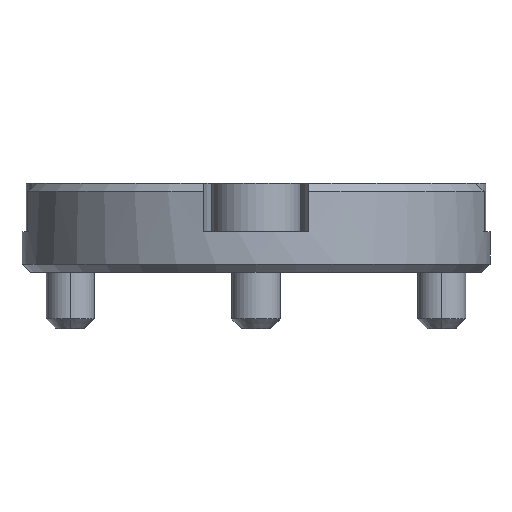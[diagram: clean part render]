
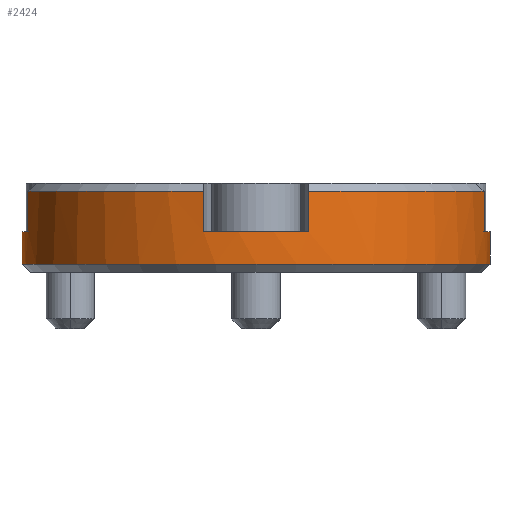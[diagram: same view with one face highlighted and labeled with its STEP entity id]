
A CAD part, left-side view. The second image highlights one B-rep face of the part: STEP entity #2424.
In plain terms, the highlighted cylindrical face has radius 14.5 mm (diameter 29 mm), a partial arc.
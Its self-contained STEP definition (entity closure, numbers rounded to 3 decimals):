
#1 = AXIS2_PLACEMENT_3D ( 'NONE', #1366, #2553, #2802 ) ;
#42 = AXIS2_PLACEMENT_3D ( 'NONE', #704, #1662, #964 ) ;
#108 = CARTESIAN_POINT ( 'NONE',  ( 0., -14.5, -5.5 ) ) ;
#113 = AXIS2_PLACEMENT_3D ( 'NONE', #1249, #1792, #2966 ) ;
#129 = EDGE_CURVE ( 'NONE', #2294, #2303, #2769, .T. ) ;
#142 = LINE ( 'NONE', #1808, #1926 ) ;
#172 = CARTESIAN_POINT ( 'NONE',  ( 0., 0., -5. ) ) ;
#203 = CARTESIAN_POINT ( 'NONE',  ( -14.131, -3.25, -0.5 ) ) ;
#230 = ORIENTED_EDGE ( 'NONE', *, *, #885, .T. ) ;
#254 = AXIS2_PLACEMENT_3D ( 'NONE', #945, #914, #2361 ) ;
#289 = CARTESIAN_POINT ( 'NONE',  ( 0., 14.5, -3. ) ) ;
#378 = CARTESIAN_POINT ( 'NONE',  ( -14.131, 3.25, -3. ) ) ;
#431 = EDGE_LOOP ( 'NONE', ( #1534, #2322, #2414, #606, #2324, #997, #230, #2929, #2293, #2393, #1594, #2403 ) ) ;
#457 = CARTESIAN_POINT ( 'NONE',  ( -3.25, 14.131, -3. ) ) ;
#482 = CYLINDRICAL_SURFACE ( 'NONE', #2024, 14.5 ) ;
#519 = LINE ( 'NONE', #1444, #2587 ) ;
#571 = CIRCLE ( 'NONE', #821, 14.5 ) ;
#606 = ORIENTED_EDGE ( 'NONE', *, *, #129, .T. ) ;
#613 = DIRECTION ( 'NONE',  ( 0., 0., 1. ) ) ;
#704 = CARTESIAN_POINT ( 'NONE',  ( 0., 0., -3. ) ) ;
#715 = CARTESIAN_POINT ( 'NONE',  ( -3.25, -14.131, -0.5 ) ) ;
#740 = CARTESIAN_POINT ( 'NONE',  ( 0., 14.5, -5. ) ) ;
#821 = AXIS2_PLACEMENT_3D ( 'NONE', #1282, #1033, #1988 ) ;
#862 = CARTESIAN_POINT ( 'NONE',  ( 0., -14.5, -3. ) ) ;
#885 = EDGE_CURVE ( 'NONE', #1828, #1512, #3083, .T. ) ;
#895 = CARTESIAN_POINT ( 'NONE',  ( 0., -14.5, -5. ) ) ;
#900 = EDGE_CURVE ( 'NONE', #2533, #1828, #2669, .T. ) ;
#914 = DIRECTION ( 'NONE',  ( 0., 0., -1. ) ) ;
#916 = VECTOR ( 'NONE', #1853, 1000. ) ;
#945 = CARTESIAN_POINT ( 'NONE',  ( 0., 0., -0.5 ) ) ;
#964 = DIRECTION ( 'NONE',  ( 0., 1., 0. ) ) ;
#997 = ORIENTED_EDGE ( 'NONE', *, *, #900, .T. ) ;
#1024 = LINE ( 'NONE', #108, #1219 ) ;
#1033 = DIRECTION ( 'NONE',  ( 0., 0., -1. ) ) ;
#1036 = EDGE_CURVE ( 'NONE', #1106, #2991, #1954, .T. ) ;
#1106 = VERTEX_POINT ( 'NONE', #740 ) ;
#1147 = EDGE_CURVE ( 'NONE', #2778, #2857, #1976, .T. ) ;
#1219 = VECTOR ( 'NONE', #1526, 1000. ) ;
#1235 = CARTESIAN_POINT ( 'NONE',  ( 0., 14.5, -5.5 ) ) ;
#1249 = CARTESIAN_POINT ( 'NONE',  ( 0., 0., -3. ) ) ;
#1282 = CARTESIAN_POINT ( 'NONE',  ( 0., 0., -0.5 ) ) ;
#1298 = EDGE_CURVE ( 'NONE', #2893, #2991, #2327, .T. ) ;
#1360 = VERTEX_POINT ( 'NONE', #2832 ) ;
#1366 = CARTESIAN_POINT ( 'NONE',  ( 0., 0., -3. ) ) ;
#1421 = CARTESIAN_POINT ( 'NONE',  ( 0., 0., -5.5 ) ) ;
#1444 = CARTESIAN_POINT ( 'NONE',  ( -3.25, -14.131, -5.5 ) ) ;
#1512 = VERTEX_POINT ( 'NONE', #3068 ) ;
#1526 = DIRECTION ( 'NONE',  ( 0., 0., 1. ) ) ;
#1534 = ORIENTED_EDGE ( 'NONE', *, *, #1036, .F. ) ;
#1578 = AXIS2_PLACEMENT_3D ( 'NONE', #172, #1618, #2584 ) ;
#1594 = ORIENTED_EDGE ( 'NONE', *, *, #2727, .T. ) ;
#1618 = DIRECTION ( 'NONE',  ( 0., 0., 1. ) ) ;
#1655 = CARTESIAN_POINT ( 'NONE',  ( -14.131, -3.25, -5.5 ) ) ;
#1660 = DIRECTION ( 'NONE',  ( 0., 0., 1. ) ) ;
#1662 = DIRECTION ( 'NONE',  ( 0., 0., -1. ) ) ;
#1742 = EDGE_CURVE ( 'NONE', #1512, #2778, #2275, .T. ) ;
#1753 = CARTESIAN_POINT ( 'NONE',  ( -14.131, 3.25, -5.5 ) ) ;
#1792 = DIRECTION ( 'NONE',  ( 0., 0., -1. ) ) ;
#1808 = CARTESIAN_POINT ( 'NONE',  ( -3.25, 14.131, -5.5 ) ) ;
#1828 = VERTEX_POINT ( 'NONE', #203 ) ;
#1853 = DIRECTION ( 'NONE',  ( 0., 0., -1. ) ) ;
#1926 = VECTOR ( 'NONE', #2335, 1000. ) ;
#1928 = DIRECTION ( 'NONE',  ( 0., 0., 1. ) ) ;
#1954 = LINE ( 'NONE', #1235, #3023 ) ;
#1976 = LINE ( 'NONE', #1753, #2169 ) ;
#1988 = DIRECTION ( 'NONE',  ( 0., 1., 0. ) ) ;
#2024 = AXIS2_PLACEMENT_3D ( 'NONE', #1421, #1660, #2427 ) ;
#2036 = EDGE_CURVE ( 'NONE', #2303, #2533, #519, .T. ) ;
#2169 = VECTOR ( 'NONE', #613, 1000. ) ;
#2181 = DIRECTION ( 'NONE',  ( 0., 0., 1. ) ) ;
#2240 = EDGE_CURVE ( 'NONE', #2857, #1360, #571, .T. ) ;
#2275 = CIRCLE ( 'NONE', #113, 14.5 ) ;
#2287 = EDGE_CURVE ( 'NONE', #1106, #2299, #3081, .T. ) ;
#2293 = ORIENTED_EDGE ( 'NONE', *, *, #1147, .T. ) ;
#2294 = VERTEX_POINT ( 'NONE', #862 ) ;
#2299 = VERTEX_POINT ( 'NONE', #895 ) ;
#2303 = VERTEX_POINT ( 'NONE', #2343 ) ;
#2322 = ORIENTED_EDGE ( 'NONE', *, *, #2287, .T. ) ;
#2324 = ORIENTED_EDGE ( 'NONE', *, *, #2036, .T. ) ;
#2327 = CIRCLE ( 'NONE', #1, 14.5 ) ;
#2335 = DIRECTION ( 'NONE',  ( 0., 0., -1. ) ) ;
#2343 = CARTESIAN_POINT ( 'NONE',  ( -3.25, -14.131, -3. ) ) ;
#2361 = DIRECTION ( 'NONE',  ( 0., 1., 0. ) ) ;
#2393 = ORIENTED_EDGE ( 'NONE', *, *, #2240, .T. ) ;
#2403 = ORIENTED_EDGE ( 'NONE', *, *, #1298, .T. ) ;
#2414 = ORIENTED_EDGE ( 'NONE', *, *, #2603, .T. ) ;
#2424 = ADVANCED_FACE ( 'NONE', ( #2925 ), #482, .T. ) ;
#2427 = DIRECTION ( 'NONE',  ( 0., -1., 0. ) ) ;
#2533 = VERTEX_POINT ( 'NONE', #715 ) ;
#2553 = DIRECTION ( 'NONE',  ( 0., 0., -1. ) ) ;
#2584 = DIRECTION ( 'NONE',  ( 0., 1., 0. ) ) ;
#2587 = VECTOR ( 'NONE', #2181, 1000. ) ;
#2603 = EDGE_CURVE ( 'NONE', #2299, #2294, #1024, .T. ) ;
#2669 = CIRCLE ( 'NONE', #254, 14.5 ) ;
#2727 = EDGE_CURVE ( 'NONE', #1360, #2893, #142, .T. ) ;
#2769 = CIRCLE ( 'NONE', #42, 14.5 ) ;
#2778 = VERTEX_POINT ( 'NONE', #378 ) ;
#2802 = DIRECTION ( 'NONE',  ( 0., 1., 0. ) ) ;
#2832 = CARTESIAN_POINT ( 'NONE',  ( -3.25, 14.131, -0.5 ) ) ;
#2857 = VERTEX_POINT ( 'NONE', #2892 ) ;
#2892 = CARTESIAN_POINT ( 'NONE',  ( -14.131, 3.25, -0.5 ) ) ;
#2893 = VERTEX_POINT ( 'NONE', #457 ) ;
#2925 = FACE_OUTER_BOUND ( 'NONE', #431, .T. ) ;
#2929 = ORIENTED_EDGE ( 'NONE', *, *, #1742, .T. ) ;
#2966 = DIRECTION ( 'NONE',  ( 0., 1., 0. ) ) ;
#2991 = VERTEX_POINT ( 'NONE', #289 ) ;
#3023 = VECTOR ( 'NONE', #1928, 1000. ) ;
#3068 = CARTESIAN_POINT ( 'NONE',  ( -14.131, -3.25, -3. ) ) ;
#3081 = CIRCLE ( 'NONE', #1578, 14.5 ) ;
#3083 = LINE ( 'NONE', #1655, #916 ) ;
